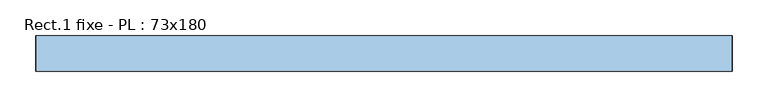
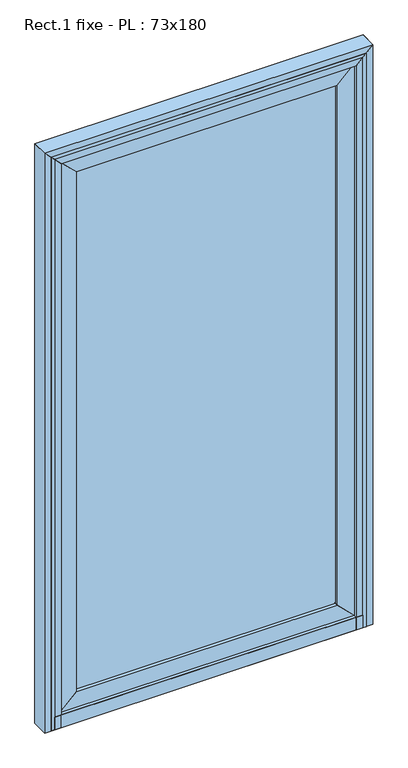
"""IFC4 building model written with IfcOpenShell, lengths in millimetres: window geometry, Rect.1 fixe - PL : 73x180."""

from ifc_helpers import new_model, si_unit, frame, origin, origin_with_axes, place, context, project, spatial, polyline, outline, extrude, source, transform, mapped, element, save


def rect_1_fixe_pl_73x180_ee1c8100(model_context):
    return source(origin(), model_context, "Body", "SweptSolid", [
        extrude(outline(polyline([(390.0, -10.0), (390.0, -30.0), (-390.0, -30.0), (-390.0, -10.0), (390.0, -10.0)])), frame((0.0, 0.0, 90.0), z_axis=(0.0, 0.0, 1.0), x_axis=(1.0, 0.0, 0.0)), (0.0, 0.0, 1.0), 1640.0),
        extrude(outline(polyline([(40.0, -440.0), (90.0, -390.0), (1730.0, -390.0), (1780.0, -440.0), (40.0, -440.0)])), frame((0.0, -40.0, 0.0), z_axis=(0.0, 1.0, 0.0), x_axis=(0.0, 0.0, 1.0)), (0.0, 0.0, 1.0), 40.0),
        extrude(outline(polyline([(90.0, 390.0), (40.0, 440.0), (1780.0, 440.0), (1730.0, 390.0), (90.0, 390.0)])), frame((0.0, -40.0, 0.0), z_axis=(0.0, 1.0, 0.0), x_axis=(0.0, 0.0, 1.0)), (0.0, 0.0, 1.0), 40.0),
        extrude(outline(polyline([(1780.0, 440.0), (1780.0, -440.0), (1730.0, -390.0), (1730.0, 390.0), (1780.0, 440.0)])), frame((0.0, -40.0, 0.0), z_axis=(0.0, 1.0, 0.0), x_axis=(0.0, 0.0, 1.0)), (0.0, 0.0, 1.0), 40.0),
        extrude(outline(polyline([(40.0, 440.0), (90.0, 390.0), (90.0, -390.0), (40.0, -440.0), (40.0, 440.0)])), frame((0.0, -40.0, 0.0), z_axis=(0.0, 1.0, 0.0), x_axis=(0.0, 0.0, 1.0)), (0.0, 0.0, 1.0), 40.0),
        extrude(outline(polyline([(440.0, -50.0), (-440.0, -50.0), (-440.0, 0.0), (440.0, 0.0), (440.0, -50.0)])), origin_with_axes(), (0.0, 0.0, 1.0), 40.0),
        extrude(outline(polyline([(-20.0, 30.0), (-20.0, 0.0), (-50.0, 0.0), (-50.0, 40.0), (-20.0, 30.0)])), frame((-460.0, 0.0, 0.0), z_axis=(1.0, 0.0, 0.0), x_axis=(0.0, 1.0, 0.0)), (0.0, 0.0, 1.0), 920.0),
        extrude(outline(polyline([(1810.0, 470.0), (1800.0, 460.0), (0.0, 460.0), (0.0, 470.0), (1810.0, 470.0)])), frame((0.0, -50.0, 0.0), z_axis=(0.0, 1.0, 0.0), x_axis=(0.0, 0.0, 1.0)), (0.0, 0.0, 1.0), 40.0),
        extrude(outline(polyline([(1810.0, -470.0), (0.0, -470.0), (0.0, -460.0), (1800.0, -460.0), (1810.0, -470.0)])), frame((0.0, -50.0, 0.0), z_axis=(0.0, 1.0, 0.0), x_axis=(0.0, 0.0, 1.0)), (0.0, 0.0, 1.0), 40.0),
        extrude(outline(polyline([(0.0, -490.0), (0.0, -440.0), (1780.0, -440.0), (1830.0, -490.0), (0.0, -490.0)])), frame((0.0, -50.0, 0.0), z_axis=(0.0, 1.0, 0.0), x_axis=(0.0, 0.0, 1.0)), (0.0, 0.0, 1.0), 50.0),
        extrude(outline(polyline([(0.0, 490.0), (1830.0, 490.0), (1780.0, 440.0), (0.0, 440.0), (0.0, 490.0)])), frame((0.0, -50.0, 0.0), z_axis=(0.0, 1.0, 0.0), x_axis=(0.0, 0.0, 1.0)), (0.0, 0.0, 1.0), 50.0),
        extrude(outline(polyline([(1810.0, -470.0), (1800.0, -460.0), (1800.0, 460.0), (1810.0, 470.0), (1810.0, -470.0)])), frame((0.0, -50.0, 0.0), z_axis=(0.0, 1.0, 0.0), x_axis=(0.0, 0.0, 1.0)), (0.0, 0.0, 1.0), 40.0),
        extrude(outline(polyline([(1830.0, 490.0), (1830.0, -490.0), (1780.0, -440.0), (1780.0, 440.0), (1830.0, 490.0)])), frame((0.0, -50.0, 0.0), z_axis=(0.0, 1.0, 0.0), x_axis=(0.0, 0.0, 1.0)), (0.0, 0.0, 1.0), 50.0),
    ])


if __name__ == "__main__":
    model = new_model("IFC4")
    model_context = context("Model", 3, world=origin())
    ifc_project = project(units=[si_unit("LENGTHUNIT", "METRE", prefix="MILLI")], contexts=[model_context])
    site = spatial("IfcSite", under=ifc_project)
    building = spatial("IfcBuilding", under=site)
    placement = place(None, origin())
    rect_1_fixe_pl_73x180_shape = rect_1_fixe_pl_73x180_ee1c8100(model_context)
    element("IfcWindow", 1, ObjectType="Rect.1 fixe - PL : 73x180", at=placement, inside=building, context=model_context, shape_type="MappedRepresentation", body=[
        mapped(rect_1_fixe_pl_73x180_shape, transform((0.0, 0.0, 0.0), x_axis=(1.0, 0.0, 0.0), y_axis=(0.0, 1.0, 0.0), z_axis=(0.0, 0.0, 1.0))),
    ])
    save(model, "model.ifc")
